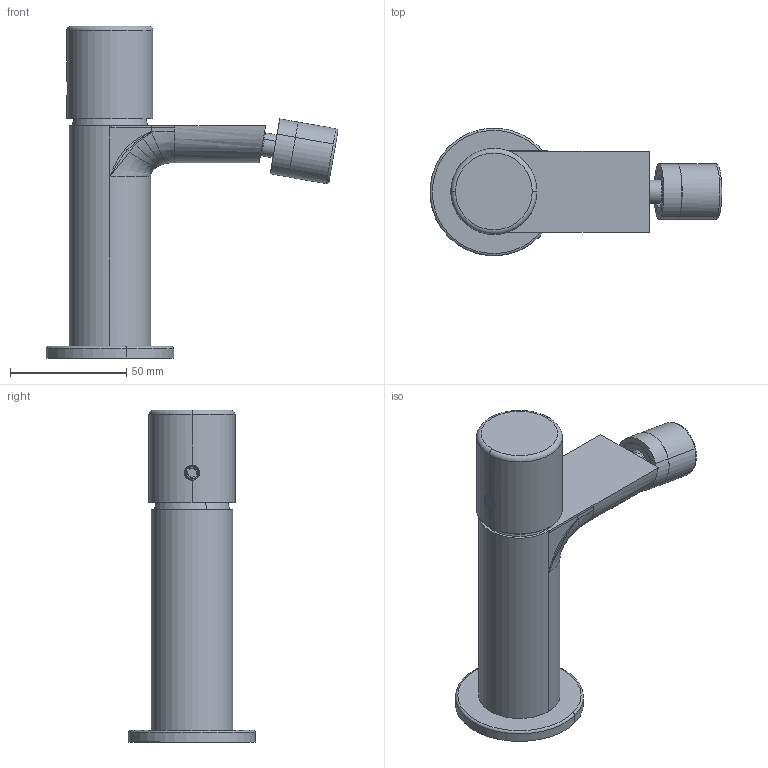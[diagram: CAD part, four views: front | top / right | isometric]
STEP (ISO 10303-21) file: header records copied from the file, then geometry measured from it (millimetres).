
FILE_DESCRIPTION (( 'STEP AP203' ), '1' );
FILE_NAME ('ZOE14D.STEP', '2024-10-31T16:43:53', ( '' ), ( '' ), 'SwSTEP 2.0', 'SolidWorks 2023', '' );
FILE_SCHEMA (( 'CONFIG_CONTROL_DESIGN' ));
Length unit declared in the file: millimetre
Products named in the file (13): CSK-011; C23.0824.01; CAPPUCCIO JAGO; JAGMC; ©¥¤┤Í¸╠Õ 2; C47.00.0023.01; ZOE14D; PD-11X7X2_5; GHIERA JAGO; CSK-M24X1; 12X1; C10.00.0030; C11.14.0007
Assembly tree (12 placements, depth 2):
  ZOE14D
    ©¥¤┤Í¸╠Õ 2
    C10.00.0030
    12X1
    CSK-011
    CSK-M24X1
    PD-11X7X2_5
    C23.0824.01
    GHIERA JAGO
    CAPPUCCIO JAGO
    JAGMC
    C11.14.0007
    C47.00.0023.01
Bounding box: 125.42 x 54.79 x 142.8 mm (x, y, z)
Volume: 42569.6 mm3; surface area: 73968.4 mm2
Topology: 9 solids, 25 shells, 2950 faces, 8540 edges, 5650 vertices
Faces by surface type: plane 2570, cylinder 219, bspline 92, cone 57, torus 12
Entity records: 106581 total; most frequent: CARTESIAN_POINT 28371, ORIENTED_EDGE 17019, DIRECTION 13243, EDGE_CURVE 8527, VECTOR 6039, LINE 6039, VERTEX_POINT 5650, EDGE_LOOP 4200
